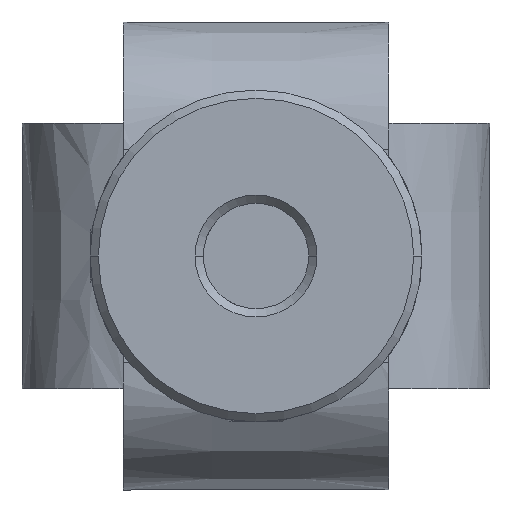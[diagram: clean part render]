
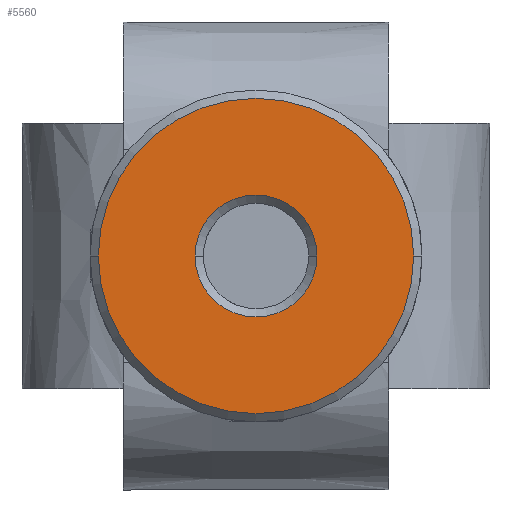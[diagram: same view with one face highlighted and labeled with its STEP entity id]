
A CAD part, front view. The second image highlights one B-rep face of the part: STEP entity #5560.
In plain terms, the highlighted planar face has unit normal (0, -1, 0).
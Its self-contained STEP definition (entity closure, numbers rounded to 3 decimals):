
#24 = ORIENTED_EDGE ( 'NONE', *, *, #1428, .T. ) ;
#116 = DIRECTION ( 'NONE',  ( -1., 0., 0. ) ) ;
#290 = CARTESIAN_POINT ( 'NONE',  ( 0., -35.24, 0. ) ) ;
#576 = CARTESIAN_POINT ( 'NONE',  ( 0., -35.24, 0. ) ) ;
#760 = DIRECTION ( 'NONE',  ( 0., -1., 0. ) ) ;
#944 = DIRECTION ( 'NONE',  ( -1., 0., 0. ) ) ;
#1009 = CARTESIAN_POINT ( 'NONE',  ( 0., -35.24, 0. ) ) ;
#1387 = EDGE_CURVE ( 'NONE', #8385, #5449, #3472, .T. ) ;
#1428 = EDGE_CURVE ( 'NONE', #2639, #4056, #6205, .T. ) ;
#1436 = AXIS2_PLACEMENT_3D ( 'NONE', #290, #8000, #7400 ) ;
#1542 = AXIS2_PLACEMENT_3D ( 'NONE', #576, #760, #116 ) ;
#1969 = AXIS2_PLACEMENT_3D ( 'NONE', #7432, #4843, #6141 ) ;
#2543 = FACE_BOUND ( 'NONE', #3492, .T. ) ;
#2550 = AXIS2_PLACEMENT_3D ( 'NONE', #4790, #4814, #944 ) ;
#2639 = VERTEX_POINT ( 'NONE', #5339 ) ;
#2857 = DIRECTION ( 'NONE',  ( 0., 1., 0. ) ) ;
#3177 = ORIENTED_EDGE ( 'NONE', *, *, #4035, .T. ) ;
#3472 = CIRCLE ( 'NONE', #2550, 9.5 ) ;
#3492 = EDGE_LOOP ( 'NONE', ( #24, #7856 ) ) ;
#3751 = CARTESIAN_POINT ( 'NONE',  ( 3.675, -35.24, 0. ) ) ;
#3865 = EDGE_CURVE ( 'NONE', #4056, #2639, #5965, .T. ) ;
#3944 = CIRCLE ( 'NONE', #1542, 9.5 ) ;
#4035 = EDGE_CURVE ( 'NONE', #5449, #8385, #3944, .T. ) ;
#4056 = VERTEX_POINT ( 'NONE', #3751 ) ;
#4108 = PLANE ( 'NONE',  #1436 ) ;
#4455 = FACE_OUTER_BOUND ( 'NONE', #6524, .T. ) ;
#4790 = CARTESIAN_POINT ( 'NONE',  ( 0., -35.24, 0. ) ) ;
#4814 = DIRECTION ( 'NONE',  ( 0., -1., 0. ) ) ;
#4843 = DIRECTION ( 'NONE',  ( 0., 1., 0. ) ) ;
#5270 = CARTESIAN_POINT ( 'NONE',  ( 9.5, -35.24, 0. ) ) ;
#5339 = CARTESIAN_POINT ( 'NONE',  ( -3.675, -35.24, 0. ) ) ;
#5449 = VERTEX_POINT ( 'NONE', #5270 ) ;
#5560 = ADVANCED_FACE ( 'NONE', ( #2543, #4455 ), #4108, .T. ) ;
#5965 = CIRCLE ( 'NONE', #7067, 3.675 ) ;
#6141 = DIRECTION ( 'NONE',  ( -1., 0., 0. ) ) ;
#6205 = CIRCLE ( 'NONE', #1969, 3.675 ) ;
#6444 = CARTESIAN_POINT ( 'NONE',  ( -9.5, -35.24, 0. ) ) ;
#6524 = EDGE_LOOP ( 'NONE', ( #3177, #6766 ) ) ;
#6766 = ORIENTED_EDGE ( 'NONE', *, *, #1387, .T. ) ;
#7067 = AXIS2_PLACEMENT_3D ( 'NONE', #1009, #2857, #7509 ) ;
#7400 = DIRECTION ( 'NONE',  ( -1., 0., 0. ) ) ;
#7432 = CARTESIAN_POINT ( 'NONE',  ( 0., -35.24, 0. ) ) ;
#7509 = DIRECTION ( 'NONE',  ( -1., 0., 0. ) ) ;
#7856 = ORIENTED_EDGE ( 'NONE', *, *, #3865, .T. ) ;
#8000 = DIRECTION ( 'NONE',  ( 0., -1., 0. ) ) ;
#8385 = VERTEX_POINT ( 'NONE', #6444 ) ;
